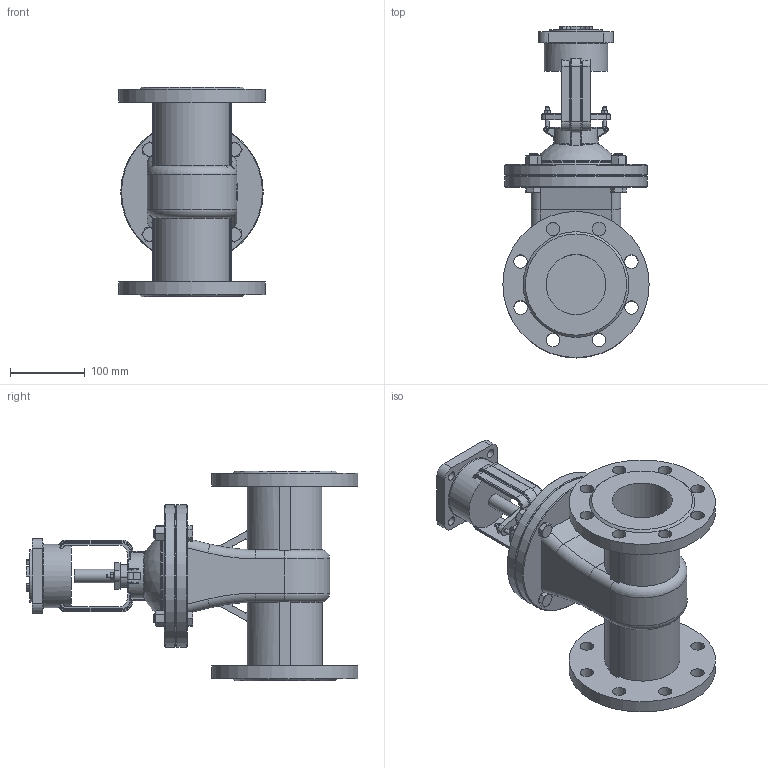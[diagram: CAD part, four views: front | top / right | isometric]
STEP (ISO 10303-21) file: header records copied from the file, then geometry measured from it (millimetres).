
FILE_DESCRIPTION(('STEP AP242'), '1');
FILE_NAME('GVWR2434M-2W-F-ÎÑÒ Çàäâèæêà êëèíîâàÿ ñ âûäâèæíûì øòîêîì Äó80 Ðó25', '2026-05-30T14:06:17', ('R2D2'), (''), 'C3D Converter', 'C3D Toolkit', '');
FILE_SCHEMA(('AP242_MANAGED_MODEL_BASED_3D_ENGINEERING_MIM_LF { 1 0 10303 442 1 1 4 }'));
Length unit declared in the file: millimetre
Products named in the file (1): GVWR2434M-2W-F-ОСТ
Bounding box: 195 x 442.5 x 280 mm (x, y, z)
Volume: 4456455.9 mm3; surface area: 496503 mm2
Topology: 1 solids, 1 shells, 821 faces, 2094 edges, 1315 vertices
Faces by surface type: plane 364, cylinder 164, cone 108, extrusion 106, torus 49, bspline 29, sphere 1
Full cylindrical faces by diameter (mm): 3 x3, 5 x4, 8 x2, 12 x12, 18 x17, 20 x1, 30 x1, 32 x1, 50 x1, 52 x1, 70 x1, 80 x2, 84.405 x1, 110 x2, 190 x2, 195 x2
Entity records: 45006 total; most frequent: CARTESIAN_POINT 19543, ORIENTED_EDGE 4046, DIRECTION 3431, EDGE_CURVE 2023, VERTEX_POINT 1313, AXIS2_PLACEMENT_3D 1223, EDGE_LOOP 1002, VECTOR 985
